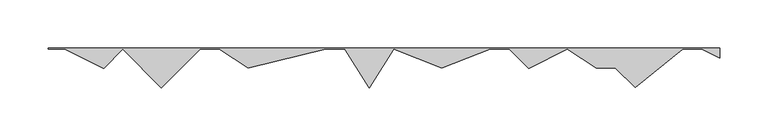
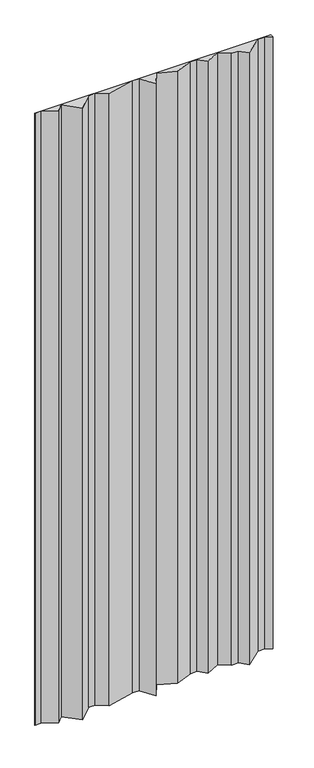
"""IFC4 building model written with IfcOpenShell, lengths in millimetres: plate geometry, ATELIERS 3S_GLACE PISSAILLAS 1000_VERTICAL : AZURO."""

from ifc_helpers import new_model, si_unit, origin, origin_with_axes, place, context, project, spatial, polyline, outline, extrude, source, transform, mapped, element, save


def plate_214b08ff(model_context):
    return source(origin(), model_context, "Body", "SweptSolid", [
        extrude(outline(polyline([(-330.2027881, -0.864757), (-347.2499998, -0.864757), (-347.2499998, 0.0), (347.2499998, 0.0), (347.2499998, -10.0931033), (328.5637933, -0.75), (309.0080966, -0.75), (259.68992, -41.009736), (239.4301841, -20.75), (219.5137625, -20.75), (189.6869623, -0.8654665), (149.5927545, -20.9125704), (129.4301841, -0.75), (109.885281, -0.75), (59.7408442, -20.8077747), (10.0445055, -0.9292392), (-15.2591558, -41.4150972), (-40.6748415, -0.75), (-60.1668265, -0.75), (-140.3991254, -20.8080747), (-170.4862375, -0.75), (-189.9484956, -0.75), (-230.2591558, -41.0606602), (-270.253716, -1.0660999), (-289.7001557, -20.9135393), (-330.2027881, -0.864757)])), origin_with_axes(), (0.0, 0.0, 1.0), 1900.0),
    ])


if __name__ == "__main__":
    model = new_model("IFC4")
    model_context = context("Model", 3, world=origin())
    ifc_project = project(units=[si_unit("LENGTHUNIT", "METRE", prefix="MILLI")], contexts=[model_context])
    site = spatial("IfcSite", under=ifc_project)
    building = spatial("IfcBuilding", under=site)
    placement = place(None, origin())
    plate_shape = plate_214b08ff(model_context)
    element("IfcPlate", 1, ObjectType="ATELIERS 3S_GLACE PISSAILLAS 1000_VERTICAL : AZURO", at=placement, inside=building, context=model_context, shape_type="MappedRepresentation", body=[
        mapped(plate_shape, transform((0.0, 0.0, 0.0), x_axis=(1.0, 0.0, 0.0), y_axis=(0.0, 1.0, 0.0), z_axis=(0.0, 0.0, 1.0))),
    ])
    save(model, "model.ifc")
